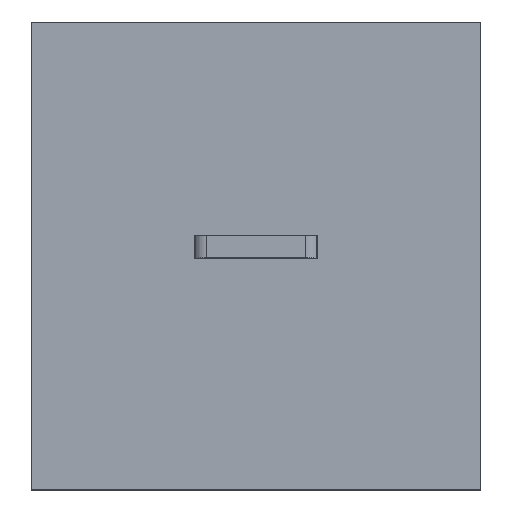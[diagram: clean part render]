
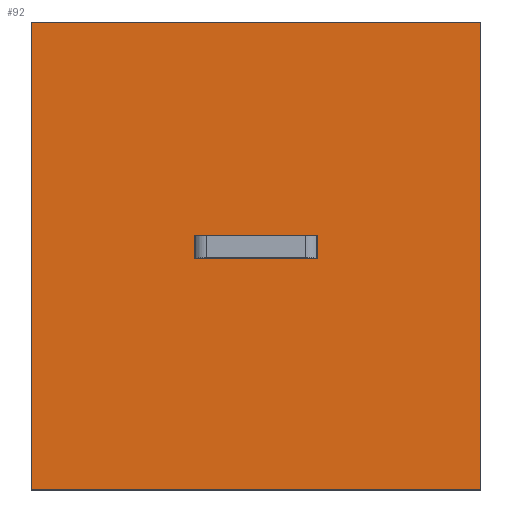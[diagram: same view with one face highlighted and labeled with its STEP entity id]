
A CAD part, top view. The second image highlights one B-rep face of the part: STEP entity #92.
In plain terms, the highlighted planar face has unit normal (0, 0, 1).
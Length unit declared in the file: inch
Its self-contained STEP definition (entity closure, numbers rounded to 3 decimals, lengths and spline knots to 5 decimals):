
#92=ADVANCED_FACE('',(#139,#140),#141,.F.);
#139=FACE_OUTER_BOUND('',#197,.T.);
#140=FACE_BOUND('',#198,.T.);
#141=PLANE('',#199);
#197=EDGE_LOOP('',(#367,#368,#369,#370));
#198=EDGE_LOOP('',(#371,#372,#373,#374,#375,#376,#377,#378,#379,#380,#381,#382));
#199=AXIS2_PLACEMENT_3D('',#383,#384,#385);
#367=ORIENTED_EDGE('',*,*,#538,.F.);
#368=ORIENTED_EDGE('',*,*,#540,.F.);
#369=ORIENTED_EDGE('',*,*,#541,.F.);
#370=ORIENTED_EDGE('',*,*,#537,.T.);
#371=ORIENTED_EDGE('',*,*,#521,.F.);
#372=ORIENTED_EDGE('',*,*,#542,.F.);
#373=ORIENTED_EDGE('',*,*,#543,.F.);
#374=ORIENTED_EDGE('',*,*,#544,.F.);
#375=ORIENTED_EDGE('',*,*,#545,.F.);
#376=ORIENTED_EDGE('',*,*,#546,.T.);
#377=ORIENTED_EDGE('',*,*,#523,.F.);
#378=ORIENTED_EDGE('',*,*,#478,.F.);
#379=ORIENTED_EDGE('',*,*,#547,.F.);
#380=ORIENTED_EDGE('',*,*,#534,.T.);
#381=ORIENTED_EDGE('',*,*,#548,.F.);
#382=ORIENTED_EDGE('',*,*,#486,.F.);
#383=CARTESIAN_POINT('',(-4.90136,0.60235,0.88519));
#384=DIRECTION('',(0.,0.0,-1.0));
#385=DIRECTION('',(-1.0,0.0,0.));
#478=EDGE_CURVE('',#566,#568,#569,.T.);
#486=EDGE_CURVE('',#582,#584,#585,.T.);
#521=EDGE_CURVE('',#644,#582,#646,.T.);
#523=EDGE_CURVE('',#568,#647,#649,.T.);
#534=EDGE_CURVE('',#662,#664,#666,.T.);
#537=EDGE_CURVE('',#667,#669,#671,.T.);
#538=EDGE_CURVE('',#672,#669,#673,.T.);
#540=EDGE_CURVE('',#675,#672,#676,.F.);
#541=EDGE_CURVE('',#667,#675,#677,.F.);
#542=EDGE_CURVE('',#678,#644,#679,.T.);
#543=EDGE_CURVE('',#680,#678,#681,.T.);
#544=EDGE_CURVE('',#682,#680,#683,.T.);
#545=EDGE_CURVE('',#684,#682,#685,.T.);
#546=EDGE_CURVE('',#684,#647,#686,.T.);
#547=EDGE_CURVE('',#662,#566,#687,.T.);
#548=EDGE_CURVE('',#584,#664,#688,.T.);
#566=VERTEX_POINT('',#709);
#568=VERTEX_POINT('',#712);
#569=LINE('',#713,#714);
#582=VERTEX_POINT('',#730);
#584=VERTEX_POINT('',#732);
#585=LINE('',#733,#734);
#644=VERTEX_POINT('',#820);
#646=LINE('',#822,#823);
#647=VERTEX_POINT('',#824);
#649=LINE('',#826,#827);
#662=VERTEX_POINT('',#846);
#664=VERTEX_POINT('',#849);
#666=LINE('',#852,#853);
#667=VERTEX_POINT('',#854);
#669=VERTEX_POINT('',#857);
#671=LINE('',#860,#861);
#672=VERTEX_POINT('',#862);
#673=LINE('',#863,#864);
#675=VERTEX_POINT('',#867);
#676=LINE('',#868,#869);
#677=LINE('',#870,#871);
#678=VERTEX_POINT('',#872);
#679=LINE('',#873,#874);
#680=VERTEX_POINT('',#875);
#681=LINE('',#876,#877);
#682=VERTEX_POINT('',#878);
#683=LINE('',#879,#880);
#684=VERTEX_POINT('',#881);
#685=LINE('',#882,#883);
#686=LINE('',#884,#885);
#687=LINE('',#886,#887);
#688=LINE('',#888,#889);
#709=CARTESIAN_POINT('',(-3.70036,0.27311,0.88519));
#712=CARTESIAN_POINT('',(-3.70122,0.27311,0.88519));
#713=CARTESIAN_POINT('',(-4.31586,0.27311,0.88519));
#714=VECTOR('',#914,1.0);
#730=CARTESIAN_POINT('',(-4.2495,0.27311,0.88519));
#732=CARTESIAN_POINT('',(-4.25036,0.27311,0.88519));
#733=CARTESIAN_POINT('',(-4.31586,0.27311,0.88519));
#734=VECTOR('',#930,1.0);
#820=CARTESIAN_POINT('',(-4.2495,0.3729,0.88519));
#822=CARTESIAN_POINT('',(-4.2495,0.43773,0.88519));
#823=VECTOR('',#979,39.37008);
#824=CARTESIAN_POINT('',(-3.70122,0.3729,0.88519));
#826=CARTESIAN_POINT('',(-3.70122,0.43773,0.88519));
#827=VECTOR('',#983,39.37008);
#846=CARTESIAN_POINT('',(-3.70036,0.27111,0.88519));
#849=CARTESIAN_POINT('',(-4.25036,0.27111,0.88519));
#852=CARTESIAN_POINT('',(-3.97536,0.27111,0.88519));
#853=VECTOR('',#998,1.0);
#854=CARTESIAN_POINT('',(-4.97536,-0.75889,0.88519));
#857=CARTESIAN_POINT('',(-2.97536,-0.75889,0.88519));
#860=CARTESIAN_POINT('',(-3.97536,-0.75889,0.88519));
#861=VECTOR('',#1001,1.0);
#862=CARTESIAN_POINT('',(-2.97536,1.3229,0.88519));
#863=CARTESIAN_POINT('',(-2.97536,13367.89691,0.88519));
#864=VECTOR('',#1002,1.0);
#867=CARTESIAN_POINT('',(-4.97536,1.3229,0.88519));
#868=CARTESIAN_POINT('',(-3.41286,1.3229,0.88519));
#869=VECTOR('',#1004,1.0);
#870=CARTESIAN_POINT('',(-4.97536,16634.38415,0.88519));
#871=VECTOR('',#1005,1.0);
#872=CARTESIAN_POINT('',(-4.25036,0.3729,0.88519));
#873=CARTESIAN_POINT('',(-4.31586,0.3729,0.88519));
#874=VECTOR('',#1006,1.0);
#875=CARTESIAN_POINT('',(-4.25036,0.3749,0.88519));
#876=CARTESIAN_POINT('',(-4.25036,0.43773,0.88519));
#877=VECTOR('',#1007,1.0);
#878=CARTESIAN_POINT('',(-3.70036,0.3749,0.88519));
#879=CARTESIAN_POINT('',(-2.13036,0.3749,0.88519));
#880=VECTOR('',#1008,39.37008);
#881=CARTESIAN_POINT('',(-3.70036,0.3729,0.88519));
#882=CARTESIAN_POINT('',(-3.70036,0.43773,0.88519));
#883=VECTOR('',#1009,1.0);
#884=CARTESIAN_POINT('',(-4.31586,0.3729,0.88519));
#885=VECTOR('',#1010,1.0);
#886=CARTESIAN_POINT('',(-3.70036,0.43773,0.88519));
#887=VECTOR('',#1011,1.0);
#888=CARTESIAN_POINT('',(-4.25036,0.43773,0.88519));
#889=VECTOR('',#1012,1.0);
#914=DIRECTION('',(-1.0,0.,0.));
#930=DIRECTION('',(-1.0,0.,0.));
#979=DIRECTION('',(0.,-1.0,0.));
#983=DIRECTION('',(0.,1.0,0.));
#998=DIRECTION('',(-1.0,0.0,0.0));
#1001=DIRECTION('',(1.0,0.0,0.0));
#1002=DIRECTION('',(0.,-1.0,0.));
#1004=DIRECTION('',(-1.0,0.,0.));
#1005=DIRECTION('',(0.,-1.0,0.));
#1006=DIRECTION('',(1.0,0.,0.));
#1007=DIRECTION('',(0.,-1.0,0.));
#1008=DIRECTION('',(-1.0,0.,0.));
#1009=DIRECTION('',(0.,1.0,0.));
#1010=DIRECTION('',(-1.0,0.,0.));
#1011=DIRECTION('',(0.,1.0,0.));
#1012=DIRECTION('',(0.,-1.0,0.));
